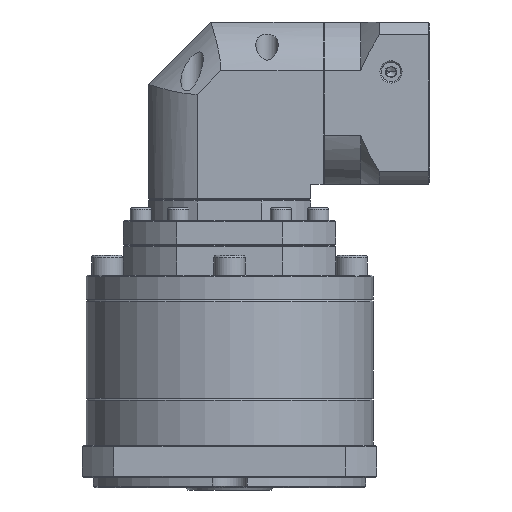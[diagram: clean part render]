
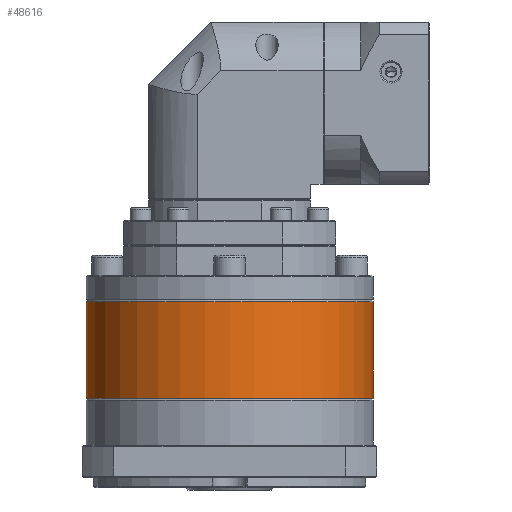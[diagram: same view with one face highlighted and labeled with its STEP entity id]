
A CAD part, front view. The second image highlights one B-rep face of the part: STEP entity #48616.
In plain terms, the highlighted cylindrical face has radius 57.5 mm (diameter 115 mm), a partial arc.
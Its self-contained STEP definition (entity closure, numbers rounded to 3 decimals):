
#2817 = EDGE_CURVE ( 'NONE', #106972, #62621, #24017, .T. ) ;
#4242 = DIRECTION ( 'NONE',  ( 0., 0., -1. ) ) ;
#6461 = ORIENTED_EDGE ( 'NONE', *, *, #94190, .F. ) ;
#6877 = CARTESIAN_POINT ( 'NONE',  ( 72.349, 99.511, -79.489 ) ) ;
#8959 = CARTESIAN_POINT ( 'NONE',  ( 129.849, 99.511, -118.2 ) ) ;
#14254 = CARTESIAN_POINT ( 'NONE',  ( 72.349, 99.511, -78.989 ) ) ;
#24017 = CIRCLE ( 'NONE', #54567, 57.5 ) ;
#28408 = VERTEX_POINT ( 'NONE', #106053 ) ;
#32824 = LINE ( 'NONE', #36540, #55386 ) ;
#33065 = ORIENTED_EDGE ( 'NONE', *, *, #2817, .T. ) ;
#36003 = AXIS2_PLACEMENT_3D ( 'NONE', #14254, #4242, #97970 ) ;
#36540 = CARTESIAN_POINT ( 'NONE',  ( 129.849, 99.511, -78.989 ) ) ;
#37786 = AXIS2_PLACEMENT_3D ( 'NONE', #6877, #89727, #48569 ) ;
#43156 = CARTESIAN_POINT ( 'NONE',  ( 14.849, 99.511, -118.2 ) ) ;
#48569 = DIRECTION ( 'NONE',  ( -1., 0., 0. ) ) ;
#48616 = ADVANCED_FACE ( 'NONE', ( #90226 ), #80493, .T. ) ;
#54567 = AXIS2_PLACEMENT_3D ( 'NONE', #80954, #134106, #112350 ) ;
#55386 = VECTOR ( 'NONE', #67710, 1000. ) ;
#62621 = VERTEX_POINT ( 'NONE', #8959 ) ;
#65970 = VECTOR ( 'NONE', #75889, 1000. ) ;
#67710 = DIRECTION ( 'NONE',  ( 0., 0., -1. ) ) ;
#68731 = EDGE_CURVE ( 'NONE', #28408, #106972, #129324, .T. ) ;
#75889 = DIRECTION ( 'NONE',  ( 0., 0., -1. ) ) ;
#80493 = CYLINDRICAL_SURFACE ( 'NONE', #36003, 57.5 ) ;
#80954 = CARTESIAN_POINT ( 'NONE',  ( 72.349, 99.511, -118.2 ) ) ;
#82238 = EDGE_LOOP ( 'NONE', ( #6461, #102828, #85408, #33065 ) ) ;
#85408 = ORIENTED_EDGE ( 'NONE', *, *, #68731, .T. ) ;
#89727 = DIRECTION ( 'NONE',  ( 0., 0., -1. ) ) ;
#90226 = FACE_OUTER_BOUND ( 'NONE', #82238, .T. ) ;
#94190 = EDGE_CURVE ( 'NONE', #102119, #62621, #32824, .T. ) ;
#97970 = DIRECTION ( 'NONE',  ( -1., 0., 0. ) ) ;
#102119 = VERTEX_POINT ( 'NONE', #121397 ) ;
#102828 = ORIENTED_EDGE ( 'NONE', *, *, #132506, .T. ) ;
#106053 = CARTESIAN_POINT ( 'NONE',  ( 14.849, 99.511, -79.489 ) ) ;
#106972 = VERTEX_POINT ( 'NONE', #43156 ) ;
#112350 = DIRECTION ( 'NONE',  ( -1., 0., 0. ) ) ;
#118132 = CARTESIAN_POINT ( 'NONE',  ( 14.849, 99.511, -78.989 ) ) ;
#121397 = CARTESIAN_POINT ( 'NONE',  ( 129.849, 99.511, -79.489 ) ) ;
#129324 = LINE ( 'NONE', #118132, #65970 ) ;
#131825 = CIRCLE ( 'NONE', #37786, 57.5 ) ;
#132506 = EDGE_CURVE ( 'NONE', #102119, #28408, #131825, .T. ) ;
#134106 = DIRECTION ( 'NONE',  ( 0., 0., 1. ) ) ;
